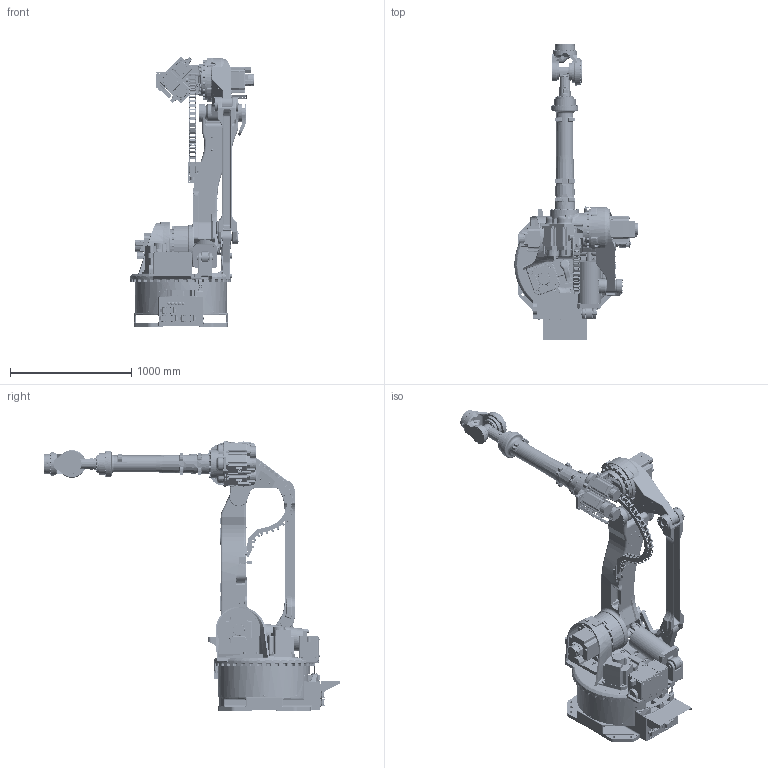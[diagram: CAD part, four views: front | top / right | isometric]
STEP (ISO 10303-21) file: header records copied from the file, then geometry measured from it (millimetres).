
FILE_DESCRIPTION(('CATIA V5 STEP Exchange','CAx-IF Rec.Pracs.--- Composite Materials ---3.4---2017-06-13'),'2;1');
FILE_NAME('D:\モデリング\☆☆☆STEP\ZX\22.04.04_ZX_ASSY_軽量化\Part\Part\step\ZX165U_ZX130S\ZX165U-B001.stp','2022-05-13T03:35:31+00:00',('none'),('none'),'CATIA Version 5-6 Release 2020 SP4 HF11','CATIA V5 STEP AP203 v2','none');
FILE_SCHEMA(('CONFIG_CONTROL_DESIGN'));
Products named in the file (1): ZX165U-B001
Assembly tree (12 placements, depth 2):
  ZX165U-B001
    #57
    #47572
    #155221
    #201814
    #273359
    #284616
    #293385
    #296168
    #327811
    #339239
    #342410
    #343140
Bounding box: 1017.99 x 2440 x 2228.9 mm (x, y, z)
Volume: 360468890.9 mm3; surface area: 14869758.1 mm2
Topology: 19 solids, 20 shells, 10521 faces, 27682 edges, 17532 vertices
Faces by surface type: cylinder 4260, plane 3967, bspline 811, torus 761, cone 302, sphere 199, extrusion 112, revolution 109
Entity records: 380737 total; most frequent: CARTESIAN_POINT 143968, ORIENTED_EDGE 54612, DIRECTION 37482, EDGE_CURVE 27306, VERTEX_POINT 17525, AXIS2_PLACEMENT_3D 16780, VECTOR 13401, LINE 13289
